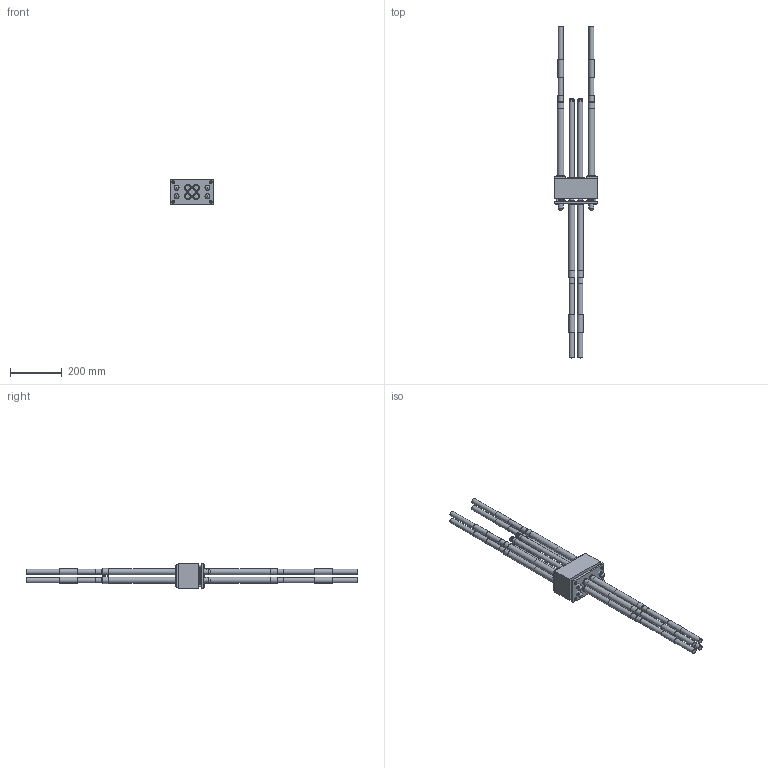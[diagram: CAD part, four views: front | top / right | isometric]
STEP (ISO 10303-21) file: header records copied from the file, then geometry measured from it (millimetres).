
FILE_DESCRIPTION(/* description */ (''),/* implementation_level */ '2;1');
FILE_NAME(/* name */ 'Z:\IDA\BBV\DE\410 Technik_Zulassungen-Verfahren\21 BBV - Hompage\Dateien für Vito Mediavilla\3. BBV LITZENSPANNVERFAHREN OHNE VERBUND, INTERN Z-13.2-70\Zwischenanker\Z-13.2-70.Z.004.00.B Zwischenanker Lo 4.stp',/* time_stamp */ '2023-09-08T14:07:36+02:00',/* author */ ('gpetri'),/* organization */ (''),/* preprocessor_version */ 'ST-DEVELOPER v18.1',/* originating_system */ 'Autodesk Inventor 2021',/* authorisation */ '');
FILE_SCHEMA (('AUTOMOTIVE_DESIGN { 1 0 10303 214 3 1 1 }'));
Products named in the file (1): Z-13.2-70.Z.004.00 Zwischenanker Lo 4_STEP
Bounding box: 170 x 1289 x 100 mm (x, y, z)
Volume: 6401697 mm3; surface area: 1198260.4 mm2
Topology: 76 solids, 76 shells, 1076 faces, 2512 edges, 1616 vertices
Faces by surface type: plane 420, cone 372, cylinder 168, torus 80, bspline 36
Full cylindrical faces by diameter (mm): 6 x8, 8.88 x8, 14.8 x16, 15.7 x8, 18.7 x8, 19.3 x4, 19.551 x4, 19.6 x12, 20 x4, 20.25 x4, 20.3 x4, 22 x8, 24 x16, 24.5 x8, 25.15 x4, 25.6 x4, 27 x8, 30 x4, 35 x4
Entity records: 54814 total; most frequent: CARTESIAN_POINT 30089, ORIENTED_EDGE 5024, DIRECTION 4658, EDGE_CURVE 2512, AXIS2_PLACEMENT_3D 1857, VERTEX_POINT 1616, STYLED_ITEM 1152, EDGE_LOOP 1136
